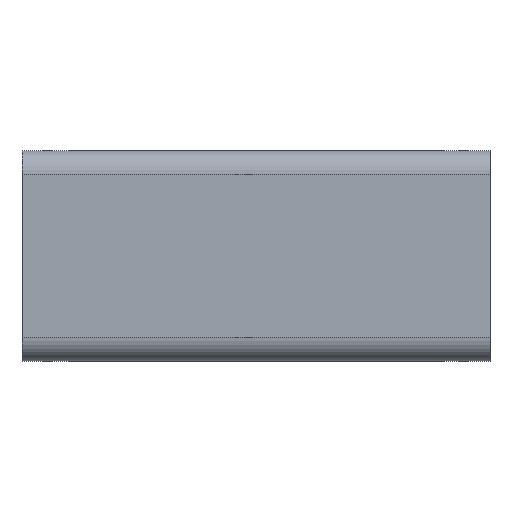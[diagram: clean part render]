
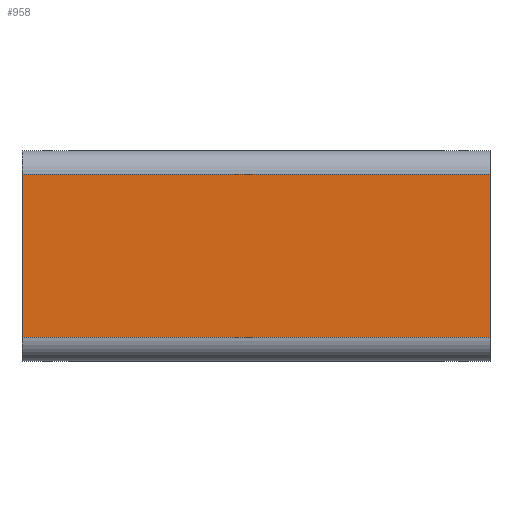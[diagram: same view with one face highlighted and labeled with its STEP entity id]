
A CAD part, top view. The second image highlights one B-rep face of the part: STEP entity #958.
In plain terms, the highlighted planar face has unit normal (0, 0, 1).
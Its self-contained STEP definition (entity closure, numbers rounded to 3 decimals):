
#32 = PLANE('',#33);
#33 = AXIS2_PLACEMENT_3D('',#34,#35,#36);
#34 = CARTESIAN_POINT('',(32.,-40.,-50.));
#35 = DIRECTION('',(1.,0.,-0.));
#36 = DIRECTION('',(0.,0.,1.));
#175 = VERTEX_POINT('',#176);
#176 = CARTESIAN_POINT('',(32.,31.,50.));
#191 = CYLINDRICAL_SURFACE('',#192,9.);
#192 = AXIS2_PLACEMENT_3D('',#193,#194,#195);
#193 = CARTESIAN_POINT('',(32.,31.,41.));
#194 = DIRECTION('',(1.,0.,-0.));
#195 = DIRECTION('',(0.,1.,0.));
#203 = EDGE_CURVE('',#204,#175,#206,.T.);
#204 = VERTEX_POINT('',#205);
#205 = CARTESIAN_POINT('',(32.,-31.,50.));
#206 = SURFACE_CURVE('',#207,(#211,#218),.PCURVE_S1.);
#207 = LINE('',#208,#209);
#208 = CARTESIAN_POINT('',(32.,-40.,50.));
#209 = VECTOR('',#210,1.);
#210 = DIRECTION('',(-0.,1.,0.));
#211 = PCURVE('',#32,#212);
#212 = DEFINITIONAL_REPRESENTATION('',(#213),#217);
#213 = LINE('',#214,#215);
#214 = CARTESIAN_POINT('',(100.,0.));
#215 = VECTOR('',#216,1.);
#216 = DIRECTION('',(0.,-1.));
#217 = ( GEOMETRIC_REPRESENTATION_CONTEXT(2) 
PARAMETRIC_REPRESENTATION_CONTEXT() REPRESENTATION_CONTEXT('2D SPACE',''
  ) );
#218 = PCURVE('',#219,#224);
#219 = PLANE('',#220);
#220 = AXIS2_PLACEMENT_3D('',#221,#222,#223);
#221 = CARTESIAN_POINT('',(32.,-40.,50.));
#222 = DIRECTION('',(0.,0.,1.));
#223 = DIRECTION('',(1.,0.,-0.));
#224 = DEFINITIONAL_REPRESENTATION('',(#225),#229);
#225 = LINE('',#226,#227);
#226 = CARTESIAN_POINT('',(0.,0.));
#227 = VECTOR('',#228,1.);
#228 = DIRECTION('',(0.,1.));
#229 = ( GEOMETRIC_REPRESENTATION_CONTEXT(2) 
PARAMETRIC_REPRESENTATION_CONTEXT() REPRESENTATION_CONTEXT('2D SPACE',''
  ) );
#250 = CYLINDRICAL_SURFACE('',#251,9.);
#251 = AXIS2_PLACEMENT_3D('',#252,#253,#254);
#252 = CARTESIAN_POINT('',(32.,-31.,41.));
#253 = DIRECTION('',(1.,0.,-0.));
#254 = DIRECTION('',(0.,-1.,0.));
#505 = PLANE('',#506);
#506 = AXIS2_PLACEMENT_3D('',#507,#508,#509);
#507 = CARTESIAN_POINT('',(210.,-40.,-50.));
#508 = DIRECTION('',(1.,0.,-0.));
#509 = DIRECTION('',(0.,0.,1.));
#860 = EDGE_CURVE('',#204,#861,#863,.T.);
#861 = VERTEX_POINT('',#862);
#862 = CARTESIAN_POINT('',(210.,-31.,50.));
#863 = SURFACE_CURVE('',#864,(#868,#875),.PCURVE_S1.);
#864 = LINE('',#865,#866);
#865 = CARTESIAN_POINT('',(32.,-31.,50.));
#866 = VECTOR('',#867,1.);
#867 = DIRECTION('',(1.,0.,-0.));
#868 = PCURVE('',#250,#869);
#869 = DEFINITIONAL_REPRESENTATION('',(#870),#874);
#870 = LINE('',#871,#872);
#871 = CARTESIAN_POINT('',(-1.571,0.));
#872 = VECTOR('',#873,1.);
#873 = DIRECTION('',(-0.,1.));
#874 = ( GEOMETRIC_REPRESENTATION_CONTEXT(2) 
PARAMETRIC_REPRESENTATION_CONTEXT() REPRESENTATION_CONTEXT('2D SPACE',''
  ) );
#875 = PCURVE('',#219,#876);
#876 = DEFINITIONAL_REPRESENTATION('',(#877),#881);
#877 = LINE('',#878,#879);
#878 = CARTESIAN_POINT('',(0.,9.));
#879 = VECTOR('',#880,1.);
#880 = DIRECTION('',(1.,0.));
#881 = ( GEOMETRIC_REPRESENTATION_CONTEXT(2) 
PARAMETRIC_REPRESENTATION_CONTEXT() REPRESENTATION_CONTEXT('2D SPACE',''
  ) );
#958 = ADVANCED_FACE('',(#959),#219,.T.);
#959 = FACE_BOUND('',#960,.T.);
#960 = EDGE_LOOP('',(#961,#962,#963,#986));
#961 = ORIENTED_EDGE('',*,*,#203,.F.);
#962 = ORIENTED_EDGE('',*,*,#860,.T.);
#963 = ORIENTED_EDGE('',*,*,#964,.T.);
#964 = EDGE_CURVE('',#861,#965,#967,.T.);
#965 = VERTEX_POINT('',#966);
#966 = CARTESIAN_POINT('',(210.,31.,50.));
#967 = SURFACE_CURVE('',#968,(#972,#979),.PCURVE_S1.);
#968 = LINE('',#969,#970);
#969 = CARTESIAN_POINT('',(210.,-40.,50.));
#970 = VECTOR('',#971,1.);
#971 = DIRECTION('',(-0.,1.,0.));
#972 = PCURVE('',#219,#973);
#973 = DEFINITIONAL_REPRESENTATION('',(#974),#978);
#974 = LINE('',#975,#976);
#975 = CARTESIAN_POINT('',(178.,0.));
#976 = VECTOR('',#977,1.);
#977 = DIRECTION('',(0.,1.));
#978 = ( GEOMETRIC_REPRESENTATION_CONTEXT(2) 
PARAMETRIC_REPRESENTATION_CONTEXT() REPRESENTATION_CONTEXT('2D SPACE',''
  ) );
#979 = PCURVE('',#505,#980);
#980 = DEFINITIONAL_REPRESENTATION('',(#981),#985);
#981 = LINE('',#982,#983);
#982 = CARTESIAN_POINT('',(100.,0.));
#983 = VECTOR('',#984,1.);
#984 = DIRECTION('',(0.,-1.));
#985 = ( GEOMETRIC_REPRESENTATION_CONTEXT(2) 
PARAMETRIC_REPRESENTATION_CONTEXT() REPRESENTATION_CONTEXT('2D SPACE',''
  ) );
#986 = ORIENTED_EDGE('',*,*,#987,.F.);
#987 = EDGE_CURVE('',#175,#965,#988,.T.);
#988 = SURFACE_CURVE('',#989,(#993,#1000),.PCURVE_S1.);
#989 = LINE('',#990,#991);
#990 = CARTESIAN_POINT('',(32.,31.,50.));
#991 = VECTOR('',#992,1.);
#992 = DIRECTION('',(1.,0.,-0.));
#993 = PCURVE('',#219,#994);
#994 = DEFINITIONAL_REPRESENTATION('',(#995),#999);
#995 = LINE('',#996,#997);
#996 = CARTESIAN_POINT('',(0.,71.));
#997 = VECTOR('',#998,1.);
#998 = DIRECTION('',(1.,0.));
#999 = ( GEOMETRIC_REPRESENTATION_CONTEXT(2) 
PARAMETRIC_REPRESENTATION_CONTEXT() REPRESENTATION_CONTEXT('2D SPACE',''
  ) );
#1000 = PCURVE('',#191,#1001);
#1001 = DEFINITIONAL_REPRESENTATION('',(#1002),#1006);
#1002 = LINE('',#1003,#1004);
#1003 = CARTESIAN_POINT('',(1.571,0.));
#1004 = VECTOR('',#1005,1.);
#1005 = DIRECTION('',(0.,1.));
#1006 = ( GEOMETRIC_REPRESENTATION_CONTEXT(2) 
PARAMETRIC_REPRESENTATION_CONTEXT() REPRESENTATION_CONTEXT('2D SPACE',''
  ) );
